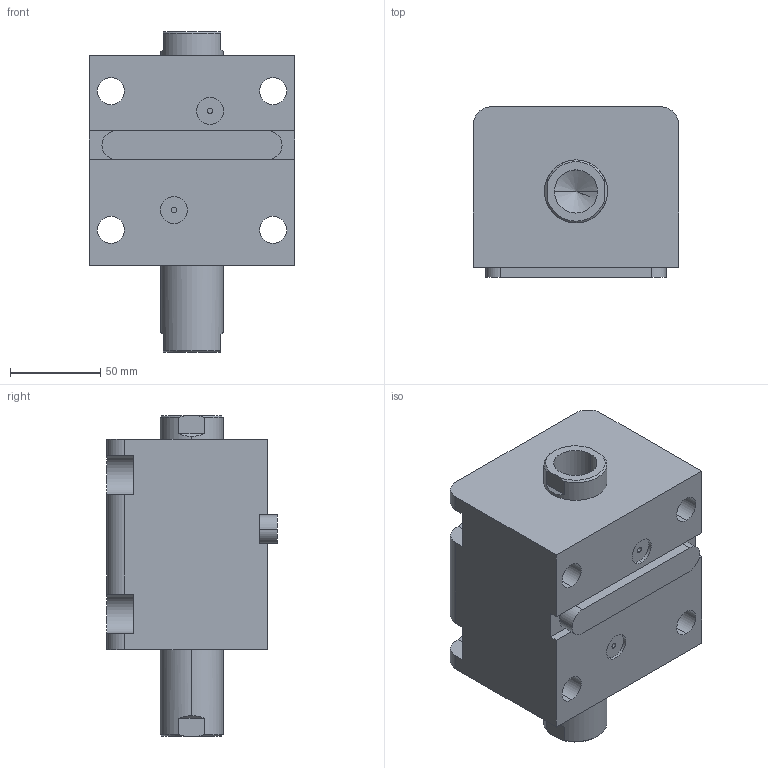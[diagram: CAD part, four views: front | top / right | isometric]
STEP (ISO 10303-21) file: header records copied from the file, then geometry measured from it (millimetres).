
FILE_DESCRIPTION (( 'STEP AP203' ), '1' );
FILE_NAME ('HTB-LWM63-35N.STEP', '2020-12-25T03:42:28', ( '微软用户' ), ( '微软中国' ), 'SwSTEP 2.0', 'SolidWorks 2012', '' );
FILE_SCHEMA (( 'CONFIG_CONTROL_DESIGN' ));
Length unit declared in the file: millimetre
Products named in the file (4): HTB-LWM63-35掛极; HTB-LWM63-35N活塞杆; HTB-LWM63-瑩; HTB-LWM63-35N
Assembly tree (3 placements, depth 2):
  HTB-LWM63-35N
    HTB-LWM63-35掛极
    HTB-LWM63-35N活塞杆
    HTB-LWM63-瑩
Bounding box: 114 x 94.5 x 178 mm (x, y, z)
Volume: 1057759.5 mm3; surface area: 141107.6 mm2
Topology: 3 solids, 3 shells, 105 faces, 261 edges, 168 vertices
Faces by surface type: cylinder 45, plane 44, torus 8, cone 8
Entity records: 3571 total; most frequent: CARTESIAN_POINT 592, DIRECTION 573, ORIENTED_EDGE 514, EDGE_CURVE 257, AXIS2_PLACEMENT_3D 221, VERTEX_POINT 168, LINE 131, VECTOR 131
